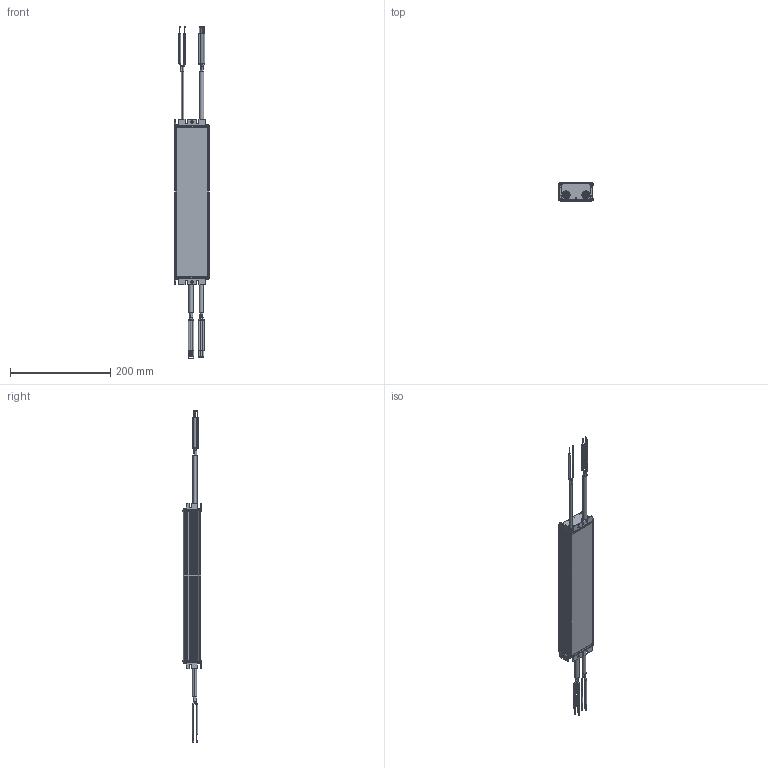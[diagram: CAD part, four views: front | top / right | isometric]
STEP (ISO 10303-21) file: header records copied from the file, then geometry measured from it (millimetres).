
FILE_DESCRIPTION (( 'STEP AP203' ), '1' );
FILE_NAME ('OT210.STEP', '2019-06-24T05:52:30', ( '' ), ( '' ), 'SwSTEP 2.0', 'SolidWorks 2017', '' );
FILE_SCHEMA (( 'CONFIG_CONTROL_DESIGN' ));
Length unit declared in the file: millimetre
Products named in the file (1): OT210
Bounding box: 68.51 x 37.9 x 662.4 mm (x, y, z)
Surface area: 113701.6 mm2 (no closed solid volume)
Topology: 0 solids, 50 shells, 679 faces, 2175 edges, 1507 vertices
Faces by surface type: cylinder 284, plane 261, torus 102, cone 28, bspline 4
Entity records: 24460 total; most frequent: CARTESIAN_POINT 4988, DIRECTION 4414, ORIENTED_EDGE 3484, EDGE_CURVE 2175, AXIS2_PLACEMENT_3D 1695, VERTEX_POINT 1507, LINE 1024, VECTOR 1024
